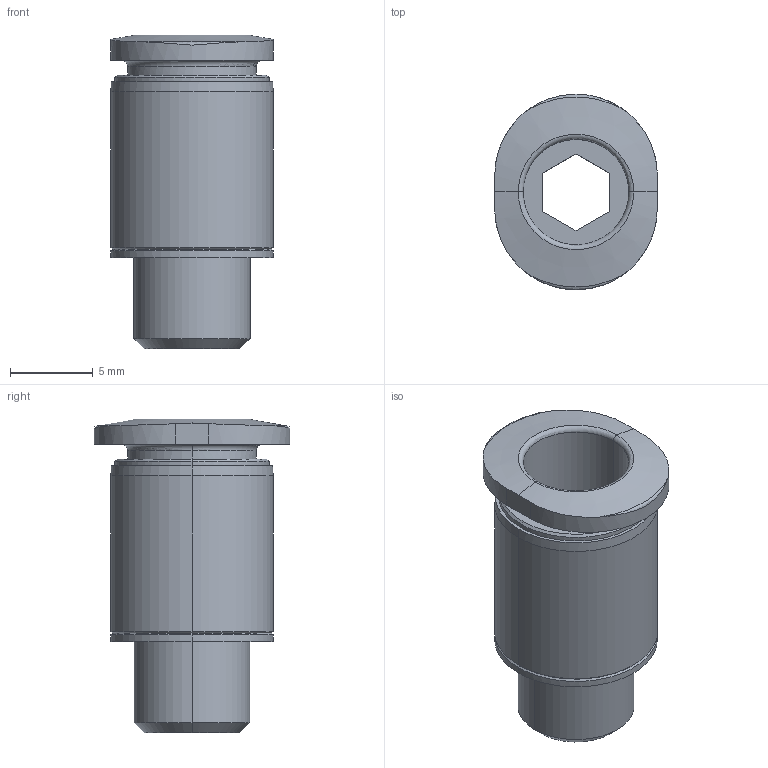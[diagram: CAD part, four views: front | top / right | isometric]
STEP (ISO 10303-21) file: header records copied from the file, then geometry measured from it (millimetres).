
FILE_DESCRIPTION (( 'STEP AP214' ), '1' );
FILE_NAME ('Fitting_M7_thread_0.25_in_tubing-QSM-M7-1_4-I-U-M.step', '2025-12-23T15:54:53', ( '' ), ( '' ), 'SwSTEP 2.0', 'SolidWorks 2026', '' );
FILE_SCHEMA (( 'AUTOMOTIVE_DESIGN' ));
Length unit declared in the file: inch
Products named in the file (1): Fitting_M7_thread_0.25_in_tubing-QSM-M7-1_4-I-U-M
Bounding box: 9.8 x 11.8 x 18.9 mm (x, y, z)
Volume: 736.6 mm3; surface area: 1057.2 mm2
Topology: 1 solids, 1 shells, 46 faces, 104 edges, 64 vertices
Faces by surface type: cylinder 14, plane 14, cone 12, torus 6
Entity records: 1911 total; most frequent: CARTESIAN_POINT 943, ORIENTED_EDGE 208, DIRECTION 158, EDGE_CURVE 104, VERTEX_POINT 64, AXIS2_PLACEMENT_3D 55, EDGE_LOOP 52, B_SPLINE_CURVE_WITH_KNOTS 48
